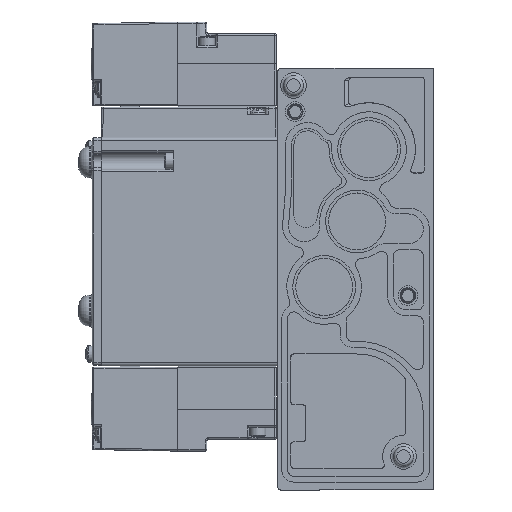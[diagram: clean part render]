
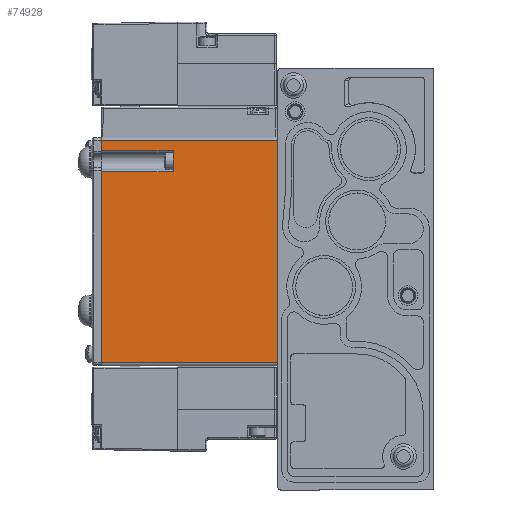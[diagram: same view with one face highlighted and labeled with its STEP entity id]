
A CAD part, left-side view. The second image highlights one B-rep face of the part: STEP entity #74928.
In plain terms, the highlighted planar face has unit normal (-1, 0, 0).
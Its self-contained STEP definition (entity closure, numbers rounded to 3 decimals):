
#101 = CARTESIAN_POINT ( 'NONE',  ( -12., 0., -37.25 ) ) ;
#1002 = VERTEX_POINT ( 'NONE', #79969 ) ;
#4811 = CARTESIAN_POINT ( 'NONE',  ( -12., 0., 37.25 ) ) ;
#6024 = ORIENTED_EDGE ( 'NONE', *, *, #24574, .T. ) ;
#8197 = VECTOR ( 'NONE', #11771, 1000. ) ;
#8881 = VERTEX_POINT ( 'NONE', #4811 ) ;
#10879 = LINE ( 'NONE', #97724, #8197 ) ;
#11017 = VECTOR ( 'NONE', #105873, 1000. ) ;
#11771 = DIRECTION ( 'NONE',  ( 0., 0., -1. ) ) ;
#14899 = LINE ( 'NONE', #55613, #55243 ) ;
#15540 = VECTOR ( 'NONE', #111054, 1000. ) ;
#16700 = VERTEX_POINT ( 'NONE', #52655 ) ;
#17525 = ORIENTED_EDGE ( 'NONE', *, *, #38718, .F. ) ;
#23113 = EDGE_CURVE ( 'NONE', #83302, #71121, #63919, .T. ) ;
#23391 = VECTOR ( 'NONE', #81333, 1000. ) ;
#23441 = EDGE_CURVE ( 'NONE', #71121, #63173, #89147, .T. ) ;
#24129 = DIRECTION ( 'NONE',  ( 0., 1., 0. ) ) ;
#24496 = EDGE_CURVE ( 'NONE', #16700, #83302, #76725, .T. ) ;
#24574 = EDGE_CURVE ( 'NONE', #8881, #63173, #58066, .T. ) ;
#24882 = VECTOR ( 'NONE', #24129, 1000. ) ;
#25397 = ORIENTED_EDGE ( 'NONE', *, *, #23441, .F. ) ;
#26331 = LINE ( 'NONE', #101, #49270 ) ;
#27086 = ORIENTED_EDGE ( 'NONE', *, *, #23113, .F. ) ;
#27788 = ORIENTED_EDGE ( 'NONE', *, *, #62058, .T. ) ;
#29656 = CARTESIAN_POINT ( 'NONE',  ( -12., 59., 37.25 ) ) ;
#30367 = CARTESIAN_POINT ( 'NONE',  ( -12., 59., 38.25 ) ) ;
#30835 = CARTESIAN_POINT ( 'NONE',  ( -12., 59., 26.75 ) ) ;
#31285 = DIRECTION ( 'NONE',  ( -1., 0., 0. ) ) ;
#34020 = FACE_OUTER_BOUND ( 'NONE', #102873, .T. ) ;
#34061 = EDGE_CURVE ( 'NONE', #1002, #100957, #14899, .T. ) ;
#36871 = CARTESIAN_POINT ( 'NONE',  ( -12., 35., 26.75 ) ) ;
#37140 = VERTEX_POINT ( 'NONE', #70253 ) ;
#37454 = CARTESIAN_POINT ( 'NONE',  ( -12., 59., 37.25 ) ) ;
#38406 = DIRECTION ( 'NONE',  ( 0., 1., 0. ) ) ;
#38718 = EDGE_CURVE ( 'NONE', #8881, #37140, #10879, .T. ) ;
#41120 = CARTESIAN_POINT ( 'NONE',  ( -12., 35., 26.75 ) ) ;
#45127 = LINE ( 'NONE', #41120, #24882 ) ;
#45670 = AXIS2_PLACEMENT_3D ( 'NONE', #82609, #31285, #91289 ) ;
#48258 = PLANE ( 'NONE',  #45670 ) ;
#49270 = VECTOR ( 'NONE', #51635, 1000. ) ;
#51635 = DIRECTION ( 'NONE',  ( 0., -1., 0. ) ) ;
#52655 = CARTESIAN_POINT ( 'NONE',  ( -12., 35., 26.75 ) ) ;
#55243 = VECTOR ( 'NONE', #64167, 1000. ) ;
#55613 = CARTESIAN_POINT ( 'NONE',  ( -12., 59., 38.25 ) ) ;
#58066 = LINE ( 'NONE', #29656, #100956 ) ;
#62058 = EDGE_CURVE ( 'NONE', #1002, #37140, #26331, .T. ) ;
#63173 = VERTEX_POINT ( 'NONE', #37454 ) ;
#63919 = LINE ( 'NONE', #84015, #15540 ) ;
#64167 = DIRECTION ( 'NONE',  ( 0., 0., 1. ) ) ;
#70253 = CARTESIAN_POINT ( 'NONE',  ( -12., 0., -37.25 ) ) ;
#70428 = CARTESIAN_POINT ( 'NONE',  ( -12., 35., 33.75 ) ) ;
#71121 = VERTEX_POINT ( 'NONE', #102798 ) ;
#72433 = ORIENTED_EDGE ( 'NONE', *, *, #101791, .T. ) ;
#74928 = ADVANCED_FACE ( 'NONE', ( #34020 ), #48258, .T. ) ;
#76725 = LINE ( 'NONE', #36871, #11017 ) ;
#79969 = CARTESIAN_POINT ( 'NONE',  ( -12., 59., -37.25 ) ) ;
#81333 = DIRECTION ( 'NONE',  ( 0., 0., 1. ) ) ;
#82609 = CARTESIAN_POINT ( 'NONE',  ( -12., 59., 38.25 ) ) ;
#83302 = VERTEX_POINT ( 'NONE', #70428 ) ;
#84015 = CARTESIAN_POINT ( 'NONE',  ( -12., 35., 33.75 ) ) ;
#89147 = LINE ( 'NONE', #30367, #23391 ) ;
#91289 = DIRECTION ( 'NONE',  ( 0., 0., 1. ) ) ;
#97724 = CARTESIAN_POINT ( 'NONE',  ( -12., 0., 38.25 ) ) ;
#100789 = ORIENTED_EDGE ( 'NONE', *, *, #34061, .F. ) ;
#100956 = VECTOR ( 'NONE', #38406, 1000. ) ;
#100957 = VERTEX_POINT ( 'NONE', #30835 ) ;
#101791 = EDGE_CURVE ( 'NONE', #16700, #100957, #45127, .T. ) ;
#102798 = CARTESIAN_POINT ( 'NONE',  ( -12., 59., 33.75 ) ) ;
#102873 = EDGE_LOOP ( 'NONE', ( #100789, #27788, #17525, #6024, #25397, #27086, #104117, #72433 ) ) ;
#104117 = ORIENTED_EDGE ( 'NONE', *, *, #24496, .F. ) ;
#105873 = DIRECTION ( 'NONE',  ( 0., 0., 1. ) ) ;
#111054 = DIRECTION ( 'NONE',  ( 0., 1., 0. ) ) ;
